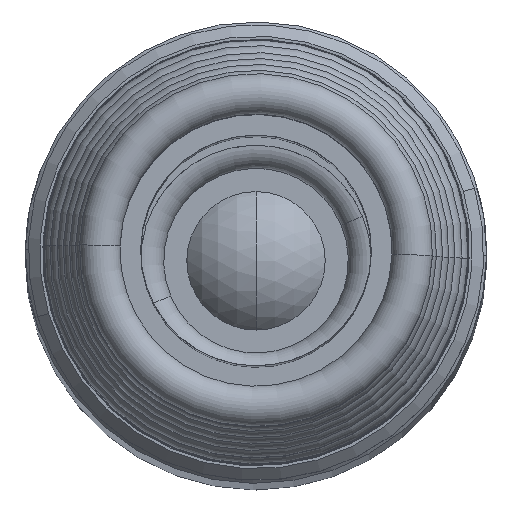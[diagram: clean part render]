
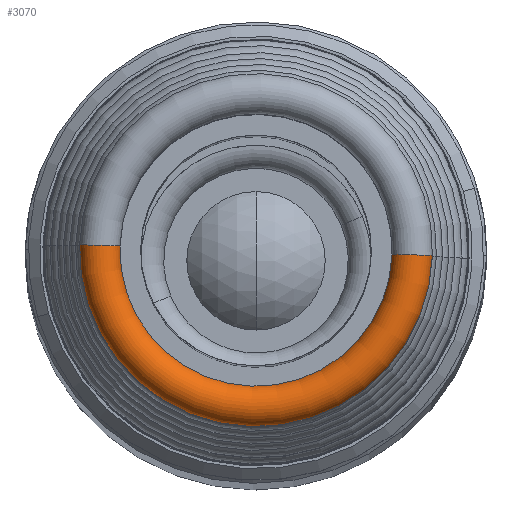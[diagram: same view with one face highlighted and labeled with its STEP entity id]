
A CAD part, top view. The second image highlights one B-rep face of the part: STEP entity #3070.
In plain terms, the highlighted toroidal (fillet/blend) face has major radius 2.71 mm and minor radius 0.35 mm.
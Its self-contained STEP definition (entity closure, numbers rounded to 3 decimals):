
#425 = EDGE_CURVE ( 'NONE', #2261, #3948, #6789, .T. ) ;
#526 = FACE_OUTER_BOUND ( 'NONE', #4544, .T. ) ;
#853 = CARTESIAN_POINT ( 'NONE',  ( 1.006, 0.265, 79.75 ) ) ;
#1002 = ORIENTED_EDGE ( 'NONE', *, *, #425, .F. ) ;
#1033 = ORIENTED_EDGE ( 'NONE', *, *, #1139, .T. ) ;
#1104 = ORIENTED_EDGE ( 'NONE', *, *, #1152, .F. ) ;
#1139 = EDGE_CURVE ( 'NONE', #2261, #5942, #4054, .T. ) ;
#1152 = EDGE_CURVE ( 'NONE', #3948, #5862, #4026, .T. ) ;
#1196 = ORIENTED_EDGE ( 'NONE', *, *, #2443, .T. ) ;
#2261 = VERTEX_POINT ( 'NONE', #8181 ) ;
#2443 = EDGE_CURVE ( 'NONE', #5942, #5862, #5266, .T. ) ;
#3070 = ADVANCED_FACE ( 'NONE', ( #526 ), #8259, .T. ) ;
#3213 = CARTESIAN_POINT ( 'NONE',  ( -4.761, 0.44, 79.75 ) ) ;
#3405 = AXIS2_PLACEMENT_3D ( 'NONE', #4911, #4904, #4894 ) ;
#3459 = AXIS2_PLACEMENT_3D ( 'NONE', #4716, #4713, #4706 ) ;
#3489 = DIRECTION ( 'NONE',  ( -1., 0.03, 0. ) ) ;
#3511 = DIRECTION ( 'NONE',  ( 0., 0., -1. ) ) ;
#3904 = CARTESIAN_POINT ( 'NONE',  ( -1.703, 0.347, 79.75 ) ) ;
#3948 = VERTEX_POINT ( 'NONE', #4003 ) ;
#4003 = CARTESIAN_POINT ( 'NONE',  ( 1.356, 0.254, 79.75 ) ) ;
#4026 = CIRCLE ( 'NONE', #3459, 3.06 ) ;
#4054 = CIRCLE ( 'NONE', #3405, 2.36 ) ;
#4544 = EDGE_LOOP ( 'NONE', ( #1104, #1002, #1033, #1196 ) ) ;
#4706 = DIRECTION ( 'NONE',  ( -1., 0., 0. ) ) ;
#4713 = DIRECTION ( 'NONE',  ( 0., 0., -1. ) ) ;
#4716 = CARTESIAN_POINT ( 'NONE',  ( -1.703, 0.347, 79.75 ) ) ;
#4894 = DIRECTION ( 'NONE',  ( -1., 0., 0. ) ) ;
#4904 = DIRECTION ( 'NONE',  ( 0., 0., -1. ) ) ;
#4911 = CARTESIAN_POINT ( 'NONE',  ( -1.703, 0.347, 79.75 ) ) ;
#5265 = AXIS2_PLACEMENT_3D ( 'NONE', #853, #8434, #8381 ) ;
#5266 = CIRCLE ( 'NONE', #6628, 0.35 ) ;
#5862 = VERTEX_POINT ( 'NONE', #3213 ) ;
#5942 = VERTEX_POINT ( 'NONE', #8213 ) ;
#6453 = DIRECTION ( 'NONE',  ( 1., -0.03, 0. ) ) ;
#6464 = DIRECTION ( 'NONE',  ( -0.03, -1., 0. ) ) ;
#6466 = CARTESIAN_POINT ( 'NONE',  ( -4.411, 0.429, 79.75 ) ) ;
#6628 = AXIS2_PLACEMENT_3D ( 'NONE', #6466, #6464, #6453 ) ;
#6789 = CIRCLE ( 'NONE', #5265, 0.35 ) ;
#7528 = AXIS2_PLACEMENT_3D ( 'NONE', #3904, #3511, #3489 ) ;
#8181 = CARTESIAN_POINT ( 'NONE',  ( 0.656, 0.275, 79.75 ) ) ;
#8213 = CARTESIAN_POINT ( 'NONE',  ( -4.062, 0.418, 79.75 ) ) ;
#8259 = TOROIDAL_SURFACE ( 'NONE', #7528, 2.71, 0.35 ) ;
#8381 = DIRECTION ( 'NONE',  ( -1., 0.03, 0. ) ) ;
#8434 = DIRECTION ( 'NONE',  ( 0.03, 1., 0. ) ) ;
